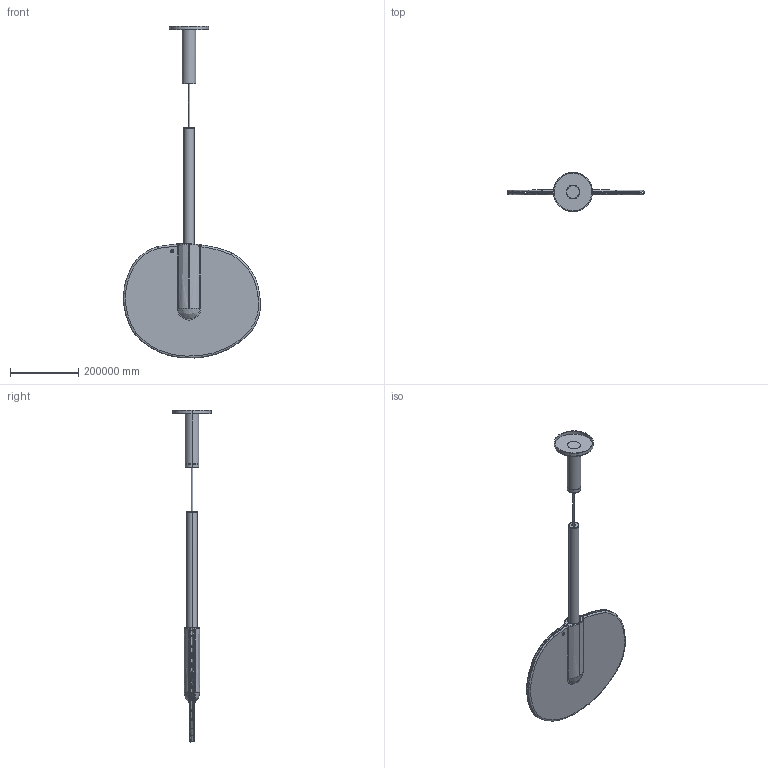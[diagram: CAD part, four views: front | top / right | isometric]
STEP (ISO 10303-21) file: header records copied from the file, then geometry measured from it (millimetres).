
FILE_DESCRIPTION(/* description */ (''),/* implementation_level */ '2;1');
FILE_NAME(/* name */ 'Lollipop Pendant D UL',/* time_stamp */ '2019-01-31T13:10:56+01:00',/* author */ (''),/* organization */ (''),/* preprocessor_version */ 'ST-DEVELOPER v15',/* originating_system */ '',/* authorisation */ '');
FILE_SCHEMA (('AUTOMOTIVE_DESIGN'));
Length unit declared in the file: metre
Products named in the file (1): Document
Bounding box: 400777.88 x 114042.22 x 971335.77 mm (x, y, z)
Volume: 1538206919092219.8 mm3; surface area: 625661841964.3 mm2
Topology: 9 solids, 9 shells, 463 faces, 1206 edges, 762 vertices
Faces by surface type: plane 275, bspline 188
Entity records: 19839 total; most frequent: CARTESIAN_POINT 12225, ORIENTED_EDGE 2396, EDGE_CURVE 1198, B_SPLINE_CURVE_WITH_KNOTS 935, VERTEX_POINT 762, EDGE_LOOP 480, ADVANCED_FACE 463, FACE_OUTER_BOUND 463
